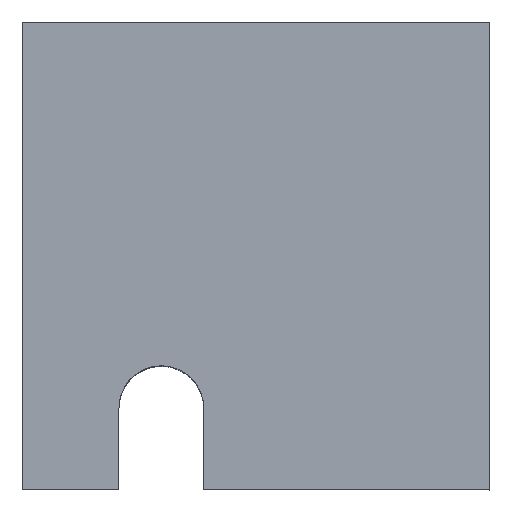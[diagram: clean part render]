
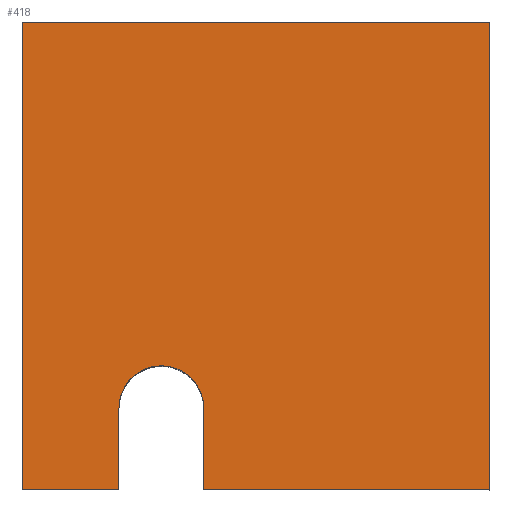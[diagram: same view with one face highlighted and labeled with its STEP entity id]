
A CAD part, top view. The second image highlights one B-rep face of the part: STEP entity #418.
In plain terms, the highlighted planar face has unit normal (0, 0, 1).
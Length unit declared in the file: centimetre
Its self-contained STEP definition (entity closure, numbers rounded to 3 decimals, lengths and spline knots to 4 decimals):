
#13 = ORIENTED_EDGE ( 'NONE', *, *, #1169, .F. ) ;
#17 = VECTOR ( 'NONE', #1464, 100. ) ;
#71 = LINE ( 'NONE', #744, #477 ) ;
#92 = DIRECTION ( 'NONE',  ( 1., 0., 0. ) ) ;
#106 = VERTEX_POINT ( 'NONE', #467 ) ;
#161 = EDGE_CURVE ( 'NONE', #620, #1140, #71, .T. ) ;
#163 = LINE ( 'NONE', #1379, #816 ) ;
#186 = VECTOR ( 'NONE', #1275, 100. ) ;
#190 = DIRECTION ( 'NONE',  ( -1., 0., 0. ) ) ;
#215 = VERTEX_POINT ( 'NONE', #1218 ) ;
#235 = ORIENTED_EDGE ( 'NONE', *, *, #161, .T. ) ;
#301 = CARTESIAN_POINT ( 'NONE',  ( 206.8107, 0., 1000. ) ) ;
#321 = EDGE_CURVE ( 'NONE', #935, #1357, #1260, .T. ) ;
#327 = VECTOR ( 'NONE', #892, 100. ) ;
#418 = ADVANCED_FACE ( 'NONE', ( #1345 ), #1316, .T. ) ;
#426 = EDGE_LOOP ( 'NONE', ( #549, #13, #900, #235, #911, #703, #1659, #1644 ) ) ;
#428 = CARTESIAN_POINT ( 'NONE',  ( 388.0107, 0., 1000. ) ) ;
#467 = CARTESIAN_POINT ( 'NONE',  ( 0., 1000., 1000. ) ) ;
#477 = VECTOR ( 'NONE', #92, 100. ) ;
#509 = AXIS2_PLACEMENT_3D ( 'NONE', #718, #847, #190 ) ;
#549 = ORIENTED_EDGE ( 'NONE', *, *, #321, .F. ) ;
#571 = CARTESIAN_POINT ( 'NONE',  ( 1000., 1000., 1000. ) ) ;
#583 = CARTESIAN_POINT ( 'NONE',  ( 206.8107, 0., 1000. ) ) ;
#620 = VERTEX_POINT ( 'NONE', #428 ) ;
#629 = EDGE_CURVE ( 'NONE', #656, #106, #1375, .T. ) ;
#646 = CARTESIAN_POINT ( 'NONE',  ( 0., 0., 1000. ) ) ;
#656 = VERTEX_POINT ( 'NONE', #571 ) ;
#664 = DIRECTION ( 'NONE',  ( 1., 0., 0. ) ) ;
#684 = CARTESIAN_POINT ( 'NONE',  ( 1000., 0., 1000. ) ) ;
#703 = ORIENTED_EDGE ( 'NONE', *, *, #629, .T. ) ;
#711 = VECTOR ( 'NONE', #968, 100. ) ;
#718 = CARTESIAN_POINT ( 'NONE',  ( 297.4107, 173.8385, 1000. ) ) ;
#744 = CARTESIAN_POINT ( 'NONE',  ( 0., 0., 1000. ) ) ;
#816 = VECTOR ( 'NONE', #845, 100. ) ;
#845 = DIRECTION ( 'NONE',  ( 1., 0., 0. ) ) ;
#847 = DIRECTION ( 'NONE',  ( 0., 0., 1. ) ) ;
#852 = LINE ( 'NONE', #1137, #186 ) ;
#866 = EDGE_CURVE ( 'NONE', #620, #215, #1074, .T. ) ;
#892 = DIRECTION ( 'NONE',  ( 0., -1., 0. ) ) ;
#900 = ORIENTED_EDGE ( 'NONE', *, *, #866, .F. ) ;
#911 = ORIENTED_EDGE ( 'NONE', *, *, #1495, .T. ) ;
#935 = VERTEX_POINT ( 'NONE', #1291 ) ;
#968 = DIRECTION ( 'NONE',  ( -1., 0., 0. ) ) ;
#1074 = LINE ( 'NONE', #1479, #1618 ) ;
#1137 = CARTESIAN_POINT ( 'NONE',  ( 1000., 1000., 1000. ) ) ;
#1140 = VERTEX_POINT ( 'NONE', #684 ) ;
#1169 = EDGE_CURVE ( 'NONE', #215, #935, #1666, .T. ) ;
#1202 = LINE ( 'NONE', #1607, #327 ) ;
#1218 = CARTESIAN_POINT ( 'NONE',  ( 388.0107, 173.8385, 1000. ) ) ;
#1249 = VERTEX_POINT ( 'NONE', #1387 ) ;
#1260 = LINE ( 'NONE', #583, #17 ) ;
#1275 = DIRECTION ( 'NONE',  ( 0., 1., 0. ) ) ;
#1291 = CARTESIAN_POINT ( 'NONE',  ( 206.8107, 173.8385, 1000. ) ) ;
#1313 = EDGE_CURVE ( 'NONE', #1249, #1357, #163, .T. ) ;
#1316 = PLANE ( 'NONE',  #1726 ) ;
#1345 = FACE_OUTER_BOUND ( 'NONE', #426, .T. ) ;
#1357 = VERTEX_POINT ( 'NONE', #301 ) ;
#1366 = CARTESIAN_POINT ( 'NONE',  ( 0., 1000., 1000. ) ) ;
#1375 = LINE ( 'NONE', #1366, #711 ) ;
#1379 = CARTESIAN_POINT ( 'NONE',  ( 0., 0., 1000. ) ) ;
#1387 = CARTESIAN_POINT ( 'NONE',  ( 0., 0., 1000. ) ) ;
#1456 = DIRECTION ( 'NONE',  ( 0., 1., 0. ) ) ;
#1464 = DIRECTION ( 'NONE',  ( 0., -1., 0. ) ) ;
#1479 = CARTESIAN_POINT ( 'NONE',  ( 388.0107, 173.8385, 1000. ) ) ;
#1495 = EDGE_CURVE ( 'NONE', #1140, #656, #852, .T. ) ;
#1607 = CARTESIAN_POINT ( 'NONE',  ( 0., 1000., 1000. ) ) ;
#1609 = EDGE_CURVE ( 'NONE', #106, #1249, #1202, .T. ) ;
#1618 = VECTOR ( 'NONE', #1456, 100. ) ;
#1623 = DIRECTION ( 'NONE',  ( 0., 0., 1. ) ) ;
#1644 = ORIENTED_EDGE ( 'NONE', *, *, #1313, .T. ) ;
#1659 = ORIENTED_EDGE ( 'NONE', *, *, #1609, .T. ) ;
#1666 = CIRCLE ( 'NONE', #509, 90.6 ) ;
#1726 = AXIS2_PLACEMENT_3D ( 'NONE', #646, #1623, #664 ) ;
